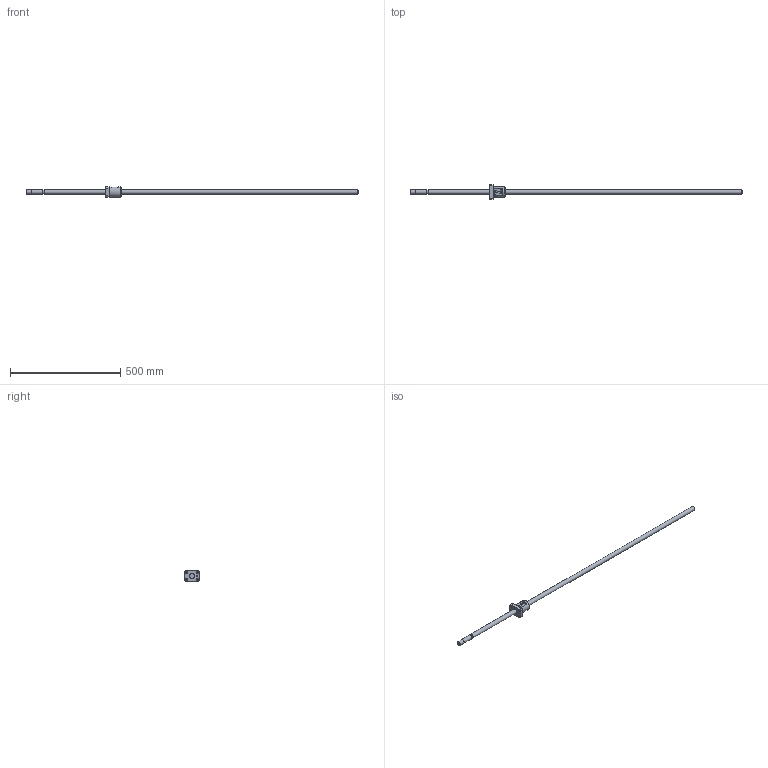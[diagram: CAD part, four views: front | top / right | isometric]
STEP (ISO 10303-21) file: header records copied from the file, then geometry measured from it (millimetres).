
FILE_DESCRIPTION (( 'STEP AP214' ), '1' );
FILE_NAME ('KBS(C)2020-1505.STEP', '2021-07-05T02:23:26', ( '' ), ( '' ), 'SwSTEP 2.0', 'SolidWorks 2019', '' );
FILE_SCHEMA (( 'AUTOMOTIVE_DESIGN' ));
Length unit declared in the file: millimetre
Products named in the file (3): KBS(C)2020-1505; KBS2020; KBS2020-1505
Assembly tree (2 placements, depth 2):
  KBS(C)2020-1505
    KBS2020-1505
    KBS2020
Bounding box: 1505 x 66 x 46 mm (x, y, z)
Volume: 575953.5 mm3; surface area: 118699.4 mm2
Topology: 2 solids, 2 shells, 103 faces, 259 edges, 171 vertices
Faces by surface type: plane 55, cylinder 40, cone 4, torus 4
Full cylindrical faces by diameter (mm): 4.8 x1, 5 x1, 6.6 x4, 7.4 x2, 11 x4, 15.9 x1, 19.5 x1, 20 x3, 22 x2, 46 x1
Entity records: 3309 total; most frequent: CARTESIAN_POINT 874, DIRECTION 464, ORIENTED_EDGE 448, EDGE_CURVE 224, AXIS2_PLACEMENT_3D 176, VERTEX_POINT 164, EDGE_LOOP 158, FACE_OUTER_BOUND 127
